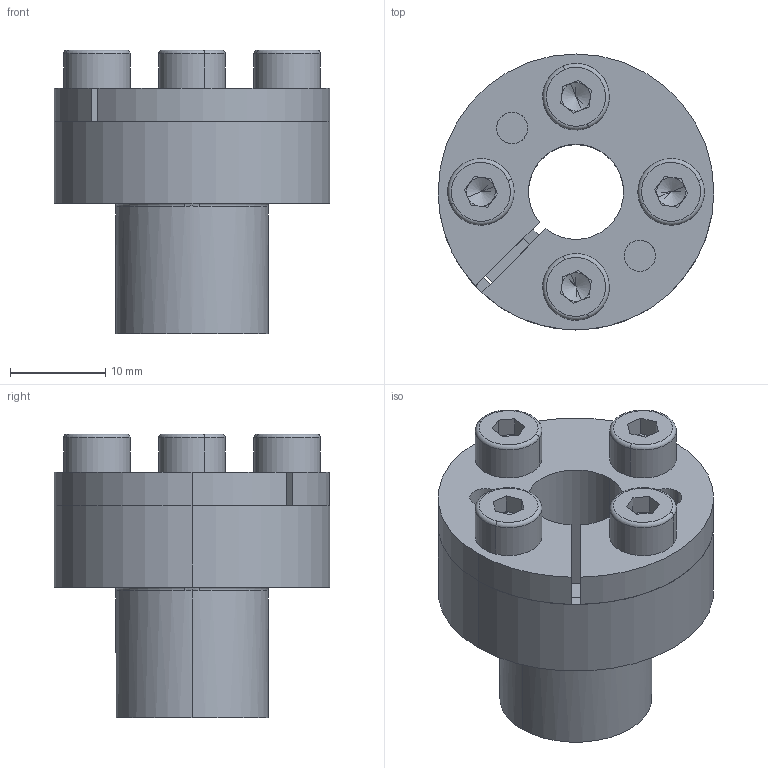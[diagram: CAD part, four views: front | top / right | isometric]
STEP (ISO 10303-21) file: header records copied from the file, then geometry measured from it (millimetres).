
FILE_DESCRIPTION (( 'STEP AP214' ), '1' );
FILE_NAME ('CONEX-B-10x16.step', '2013-04-04T12:41:02', ( 'Pc' ), ( '' ), 'SwSTEP 2.0', 'SolidWorks 2013', '' );
FILE_SCHEMA (( 'AUTOMOTIVE_DESIGN' ));
Length unit declared in the file: millimetre
Products named in the file (1): CONEX-B-10x16
Bounding box: 29 x 29 x 29.84 mm (x, y, z)
Volume: 7862.4 mm3; surface area: 9064.7 mm2
Topology: 7 solids, 7 shells, 174 faces, 430 edges, 260 vertices
Faces by surface type: plane 72, cylinder 52, torus 24, cone 22, bspline 4
Entity records: 7374 total; most frequent: CARTESIAN_POINT 1135, DIRECTION 958, ORIENTED_EDGE 844, EDGE_CURVE 422, AXIS2_PLACEMENT_3D 387, VERTEX_POINT 260, CIRCLE 216, EDGE_LOOP 194
